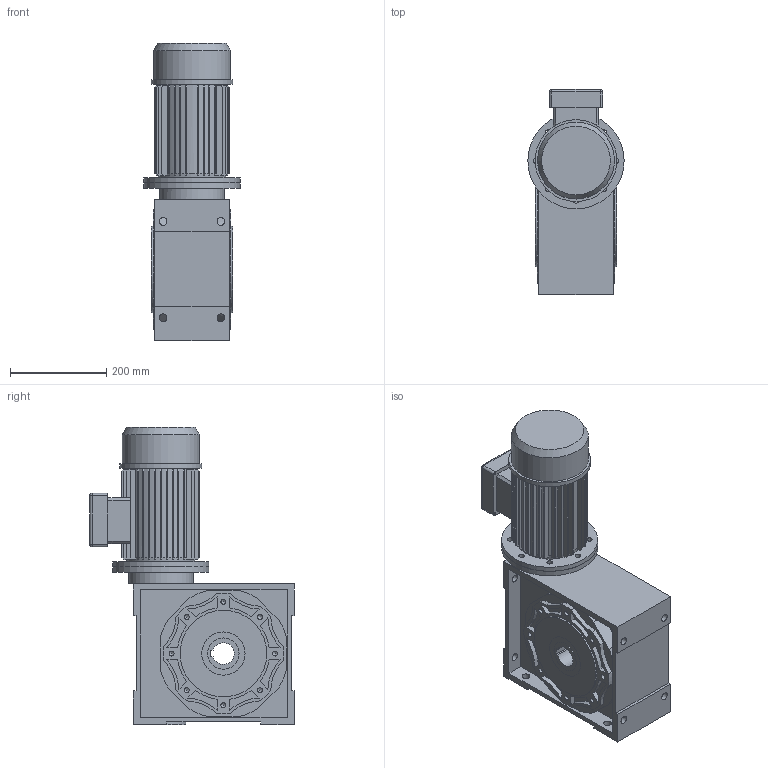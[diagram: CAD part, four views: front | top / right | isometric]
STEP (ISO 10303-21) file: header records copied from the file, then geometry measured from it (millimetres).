
FILE_DESCRIPTION( ( 'Unknown' ), '1' );
FILE_NAME( 'E:/services/configuratordownloads/customers/HYDROMEC/VSFQ/download/97FC74A28B69EE53C3FB0E5FAAD2916/STEP/97FC74A28B69EE53C3FB0E5FAAD2916.3d.stp', 'Unknown', ( 'Unknown' ), ( 'Unknown' ), 'PSStep 10.1', 'Unknown', ' ' );
FILE_SCHEMA( ( 'AUTOMOTIVE_DESIGN { 1 0 10303 214 1 1 1 1 }' ) );
Length unit declared in the file: millimetre
Products named in the file (1): Q13 cassa
Bounding box: 200 x 425.5 x 617.5 mm (x, y, z)
Volume: 19177285 mm3; surface area: 996307.8 mm2
Topology: 1 solids, 3 shells, 579 faces, 1585 edges, 1057 vertices
Faces by surface type: plane 367, cylinder 161, cone 47, sphere 4
Full cylindrical faces by diameter (mm): 4 x3, 10.2 x16, 11 x4, 11.5 x8, 16 x12, 40 x2, 65 x2, 72 x1, 80 x1, 90 x3, 120 x1, 130 x1, 134 x1, 142.466 x1, 160 x1, 170 x1, 180 x2, 200 x2, 250 x1
Entity records: 22354 total; most frequent: CARTESIAN_POINT 3416, DIRECTION 2944, ORIENTED_EDGE 2876, EDGE_CURVE 1438, AXIS2_PLACEMENT_3D 1052, VERTEX_POINT 1012, LINE 840, VECTOR 840
